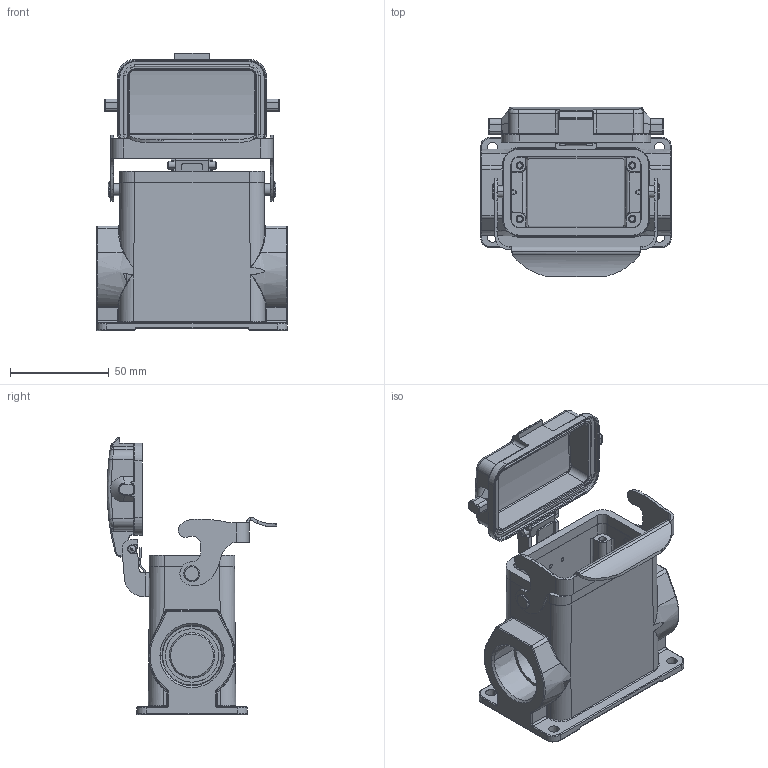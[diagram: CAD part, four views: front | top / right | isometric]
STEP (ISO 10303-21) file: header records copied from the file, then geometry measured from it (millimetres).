
FILE_DESCRIPTION (( 'STEP AP203' ), '1' );
FILE_NAME ('H10B-SDRH-LB-M32.STEP', '2020-11-21T05:15:37', ( '' ), ( '' ), 'SwSTEP 2.0', 'SolidWorks 2016', '' );
FILE_SCHEMA (( 'CONFIG_CONTROL_DESIGN' ));
Length unit declared in the file: millimetre
Products named in the file (10): 10bmifengquan; chaxiao; 10bh-surface-m-highconstruction; 0000101120; spring; baohugai-lianjiekou_5; baohugailuosi; 10bbuxiugangdankou; maoding; H10B-SDRH-LB-M32
Assembly tree (11 placements, depth 2):
  H10B-SDRH-LB-M32
    10bmifengquan
    chaxiao
    10bbuxiugangdankou
    baohugai-lianjiekou_5
    spring
    maoding  x2
    baohugailuosi  x2
    0000101120
    10bh-surface-m-highconstruction
Bounding box: 96.5 x 85.85 x 140.4 mm (x, y, z)
Volume: 148080.2 mm3; surface area: 76957.6 mm2
Topology: 11 solids, 11 shells, 991 faces, 2445 edges, 1500 vertices
Faces by surface type: cylinder 425, plane 264, bspline 212, cone 90
Entity records: 87733 total; most frequent: CARTESIAN_POINT 67163, ORIENTED_EDGE 4356, DIRECTION 3711, EDGE_CURVE 2178, AXIS2_PLACEMENT_3D 1352, VERTEX_POINT 1340, LINE 1007, VECTOR 1007
